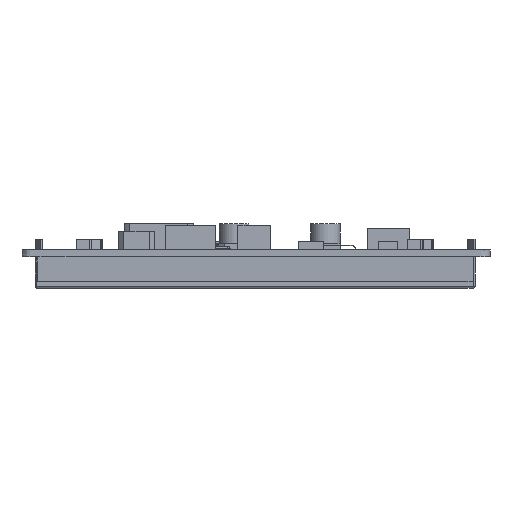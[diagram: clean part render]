
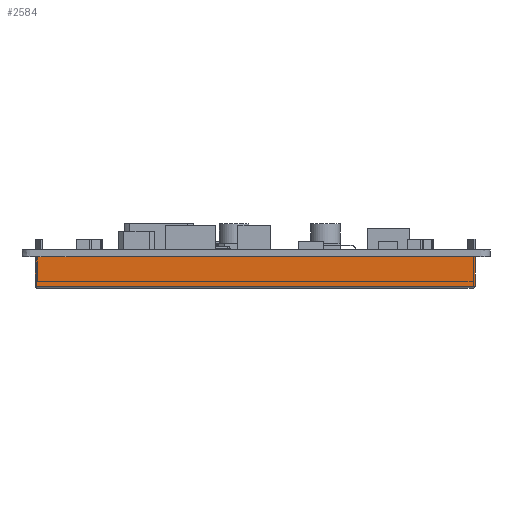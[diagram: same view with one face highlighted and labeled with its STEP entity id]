
A CAD part, left-side view. The second image highlights one B-rep face of the part: STEP entity #2584.
In plain terms, the highlighted planar face has unit normal (-1, 0, 0).
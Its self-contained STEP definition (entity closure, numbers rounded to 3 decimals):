
#2584=ADVANCED_FACE('',(#7410),#5197,.F.);
#5197=PLANE('',#53761);
#7410=FACE_OUTER_BOUND('',#10067,.T.);
#10067=EDGE_LOOP('',(#15055,#15056,#15057,#15058));
#15055=ORIENTED_EDGE('',*,*,#33137,.F.);
#15056=ORIENTED_EDGE('',*,*,#33138,.T.);
#15057=ORIENTED_EDGE('',*,*,#33139,.T.);
#15058=ORIENTED_EDGE('',*,*,#33140,.T.);
#27811=VERTEX_POINT('',#72972);
#27812=VERTEX_POINT('',#72973);
#27813=VERTEX_POINT('',#72975);
#27814=VERTEX_POINT('',#72977);
#33137=EDGE_CURVE('',#27811,#27812,#41416,.T.);
#33138=EDGE_CURVE('',#27811,#27813,#41417,.T.);
#33139=EDGE_CURVE('',#27813,#27814,#41418,.T.);
#33140=EDGE_CURVE('',#27814,#27812,#41419,.T.);
#41416=LINE('',#72971,#47817);
#41417=LINE('',#72974,#47818);
#41418=LINE('',#72976,#47819);
#41419=LINE('',#72978,#47820);
#47817=VECTOR('',#59229,1.);
#47818=VECTOR('',#59230,1.);
#47819=VECTOR('',#59231,1.);
#47820=VECTOR('',#59232,1.);
#53761=AXIS2_PLACEMENT_3D('',#72979,#59233,#59234);
#59229=DIRECTION('',(0.,0.,1.));
#59230=DIRECTION('',(0.,-1.,0.));
#59231=DIRECTION('',(0.,0.,1.));
#59232=DIRECTION('',(0.,1.,0.));
#59233=DIRECTION('',(1.,0.,0.));
#59234=DIRECTION('',(0.,0.,1.));
#72971=CARTESIAN_POINT('',(173.525,30.57,-8.8));
#72972=CARTESIAN_POINT('',(173.525,30.57,-8.3));
#72973=CARTESIAN_POINT('',(173.525,30.57,-1.6));
#72974=CARTESIAN_POINT('',(173.525,-70.43,-8.3));
#72975=CARTESIAN_POINT('',(173.525,-70.43,-8.3));
#72976=CARTESIAN_POINT('',(173.525,-70.43,-8.8));
#72977=CARTESIAN_POINT('',(173.525,-70.43,-1.6));
#72978=CARTESIAN_POINT('',(173.525,-70.43,-1.6));
#72979=CARTESIAN_POINT('',(173.525,-70.43,-8.8));
